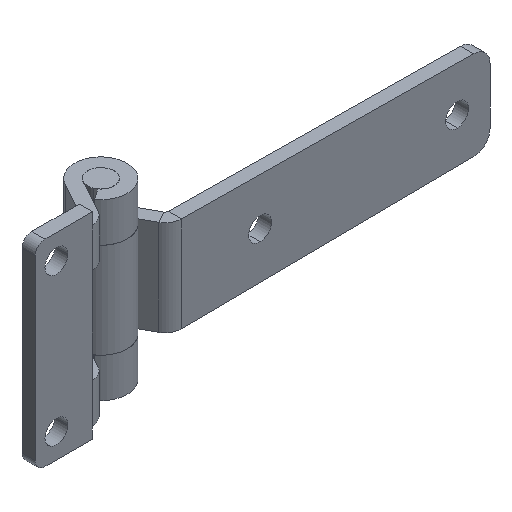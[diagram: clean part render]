
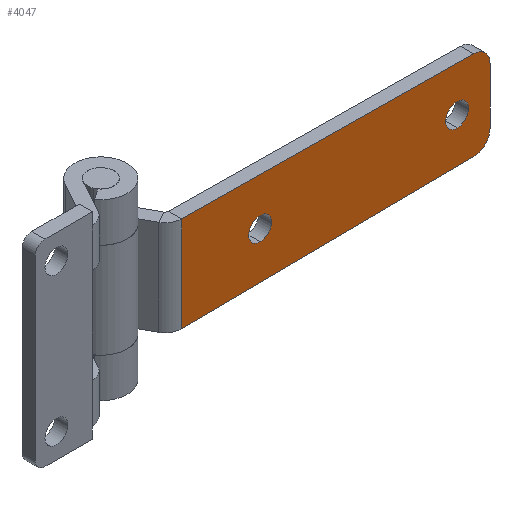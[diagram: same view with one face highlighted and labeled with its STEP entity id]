
A CAD part, isometric view. The second image highlights one B-rep face of the part: STEP entity #4047.
In plain terms, the highlighted planar face has unit normal (0, -1, 0).
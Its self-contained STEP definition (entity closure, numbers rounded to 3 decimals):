
#31 = DIRECTION ( 'NONE',  ( 1., 0., 0. ) ) ;
#40 = CARTESIAN_POINT ( 'NONE',  ( -102.553, -11., -13.553 ) ) ;
#507 = ORIENTED_EDGE ( 'NONE', *, *, #6195, .T. ) ;
#586 = AXIS2_PLACEMENT_3D ( 'NONE', #962, #5761, #1645 ) ;
#621 = LINE ( 'NONE', #3451, #7933 ) ;
#647 = ORIENTED_EDGE ( 'NONE', *, *, #5551, .T. ) ;
#651 = EDGE_CURVE ( 'NONE', #6599, #5626, #5257, .T. ) ;
#684 = AXIS2_PLACEMENT_3D ( 'NONE', #5157, #1048, #5856 ) ;
#733 = EDGE_CURVE ( 'NONE', #4020, #4530, #2784, .T. ) ;
#928 = ORIENTED_EDGE ( 'NONE', *, *, #1624, .T. ) ;
#962 = CARTESIAN_POINT ( 'NONE',  ( -37.5, -11., 0. ) ) ;
#992 = FACE_OUTER_BOUND ( 'NONE', #6076, .T. ) ;
#1048 = DIRECTION ( 'NONE',  ( 0., -1., 0. ) ) ;
#1079 = CARTESIAN_POINT ( 'NONE',  ( -37.5, -11., 0. ) ) ;
#1310 = VERTEX_POINT ( 'NONE', #40 ) ;
#1382 = VERTEX_POINT ( 'NONE', #3409 ) ;
#1480 = CARTESIAN_POINT ( 'NONE',  ( -97.5, -11., -3.5 ) ) ;
#1624 = EDGE_CURVE ( 'NONE', #3035, #1382, #2564, .T. ) ;
#1645 = DIRECTION ( 'NONE',  ( 0., 0., 1. ) ) ;
#1653 = ORIENTED_EDGE ( 'NONE', *, *, #733, .T. ) ;
#1757 = DIRECTION ( 'NONE',  ( 0., 0., 1. ) ) ;
#1792 = ORIENTED_EDGE ( 'NONE', *, *, #6266, .F. ) ;
#1818 = VERTEX_POINT ( 'NONE', #1480 ) ;
#1843 = FACE_BOUND ( 'NONE', #3260, .T. ) ;
#1942 = CARTESIAN_POINT ( 'NONE',  ( -107.5, -11., -8.553 ) ) ;
#2012 = DIRECTION ( 'NONE',  ( 0., 1., 0. ) ) ;
#2030 = CARTESIAN_POINT ( 'NONE',  ( -107.5, -11., 8.553 ) ) ;
#2146 = DIRECTION ( 'NONE',  ( 0., 0., -1. ) ) ;
#2524 = CARTESIAN_POINT ( 'NONE',  ( -13.59, -11., -14.5 ) ) ;
#2564 = CIRCLE ( 'NONE', #586, 3.5 ) ;
#2744 = CARTESIAN_POINT ( 'NONE',  ( -13., -11., 14.5 ) ) ;
#2784 = LINE ( 'NONE', #7011, #8070 ) ;
#2799 = ORIENTED_EDGE ( 'NONE', *, *, #4893, .T. ) ;
#2962 = CIRCLE ( 'NONE', #5105, 5. ) ;
#2998 = ORIENTED_EDGE ( 'NONE', *, *, #3474, .T. ) ;
#3035 = VERTEX_POINT ( 'NONE', #4751 ) ;
#3114 = DIRECTION ( 'NONE',  ( 0., 1., 0. ) ) ;
#3137 = CARTESIAN_POINT ( 'NONE',  ( -13.309, -11., -14.503 ) ) ;
#3161 = LINE ( 'NONE', #3137, #6395 ) ;
#3163 = DIRECTION ( 'NONE',  ( 1., 0., -0.011 ) ) ;
#3260 = EDGE_LOOP ( 'NONE', ( #2799, #928 ) ) ;
#3409 = CARTESIAN_POINT ( 'NONE',  ( -37.5, -11., 3.5 ) ) ;
#3430 = CIRCLE ( 'NONE', #7241, 3.5 ) ;
#3438 = PLANE ( 'NONE',  #8056 ) ;
#3451 = CARTESIAN_POINT ( 'NONE',  ( -13., -11., 14.506 ) ) ;
#3474 = EDGE_CURVE ( 'NONE', #1310, #5626, #3161, .T. ) ;
#3561 = DIRECTION ( 'NONE',  ( 0., 0., -1. ) ) ;
#3590 = DIRECTION ( 'NONE',  ( 0., -1., 0. ) ) ;
#3592 = ORIENTED_EDGE ( 'NONE', *, *, #651, .F. ) ;
#3963 = EDGE_LOOP ( 'NONE', ( #647, #507 ) ) ;
#4020 = VERTEX_POINT ( 'NONE', #2030 ) ;
#4047 = ADVANCED_FACE ( 'NONE', ( #1843, #992, #4634 ), #3438, .T. ) ;
#4125 = DIRECTION ( 'NONE',  ( 0., -1., 0. ) ) ;
#4233 = ORIENTED_EDGE ( 'NONE', *, *, #6406, .T. ) ;
#4530 = VERTEX_POINT ( 'NONE', #1942 ) ;
#4634 = FACE_BOUND ( 'NONE', #3963, .T. ) ;
#4751 = CARTESIAN_POINT ( 'NONE',  ( -37.5, -11., -3.5 ) ) ;
#4873 = CARTESIAN_POINT ( 'NONE',  ( -13.59, -11., 14.5 ) ) ;
#4893 = EDGE_CURVE ( 'NONE', #1382, #3035, #3430, .T. ) ;
#5105 = AXIS2_PLACEMENT_3D ( 'NONE', #7720, #3590, #8410 ) ;
#5157 = CARTESIAN_POINT ( 'NONE',  ( -102.5, -11., -8.553 ) ) ;
#5257 = LINE ( 'NONE', #4873, #8723 ) ;
#5551 = EDGE_CURVE ( 'NONE', #8318, #1818, #6437, .T. ) ;
#5626 = VERTEX_POINT ( 'NONE', #2524 ) ;
#5761 = DIRECTION ( 'NONE',  ( 0., 1., 0. ) ) ;
#5856 = DIRECTION ( 'NONE',  ( 1., 0., 0. ) ) ;
#5887 = DIRECTION ( 'NONE',  ( 0., 1., 0. ) ) ;
#6016 = EDGE_CURVE ( 'NONE', #4530, #1310, #6217, .T. ) ;
#6076 = EDGE_LOOP ( 'NONE', ( #1792, #4233, #1653, #8514, #2998, #3592 ) ) ;
#6143 = CARTESIAN_POINT ( 'NONE',  ( -97.5, -11., 0. ) ) ;
#6195 = EDGE_CURVE ( 'NONE', #1818, #8318, #6530, .T. ) ;
#6217 = CIRCLE ( 'NONE', #684, 5. ) ;
#6266 = EDGE_CURVE ( 'NONE', #7826, #6599, #621, .T. ) ;
#6367 = CARTESIAN_POINT ( 'NONE',  ( -102.553, -11., 13.553 ) ) ;
#6395 = VECTOR ( 'NONE', #3163, 1000. ) ;
#6406 = EDGE_CURVE ( 'NONE', #7826, #4020, #2962, .T. ) ;
#6437 = CIRCLE ( 'NONE', #8578, 3.5 ) ;
#6530 = CIRCLE ( 'NONE', #8524, 3.5 ) ;
#6581 = CARTESIAN_POINT ( 'NONE',  ( -13.59, -11., 14.5 ) ) ;
#6599 = VERTEX_POINT ( 'NONE', #6581 ) ;
#6816 = CARTESIAN_POINT ( 'NONE',  ( -97.5, -11., 3.5 ) ) ;
#6821 = DIRECTION ( 'NONE',  ( 0., 0., 1. ) ) ;
#7011 = CARTESIAN_POINT ( 'NONE',  ( -107.5, -11., 14.5 ) ) ;
#7241 = AXIS2_PLACEMENT_3D ( 'NONE', #1079, #5887, #1757 ) ;
#7243 = CARTESIAN_POINT ( 'NONE',  ( -97.5, -11., 0. ) ) ;
#7720 = CARTESIAN_POINT ( 'NONE',  ( -102.5, -11., 8.553 ) ) ;
#7826 = VERTEX_POINT ( 'NONE', #6367 ) ;
#7933 = VECTOR ( 'NONE', #8268, 1000. ) ;
#7935 = DIRECTION ( 'NONE',  ( 0., 0., 1. ) ) ;
#8056 = AXIS2_PLACEMENT_3D ( 'NONE', #2744, #4125, #31 ) ;
#8070 = VECTOR ( 'NONE', #3561, 1000. ) ;
#8268 = DIRECTION ( 'NONE',  ( 1., 0., 0.011 ) ) ;
#8318 = VERTEX_POINT ( 'NONE', #6816 ) ;
#8410 = DIRECTION ( 'NONE',  ( 1., 0., 0. ) ) ;
#8514 = ORIENTED_EDGE ( 'NONE', *, *, #6016, .T. ) ;
#8524 = AXIS2_PLACEMENT_3D ( 'NONE', #6143, #2012, #6821 ) ;
#8578 = AXIS2_PLACEMENT_3D ( 'NONE', #7243, #3114, #7935 ) ;
#8723 = VECTOR ( 'NONE', #2146, 1000. ) ;
